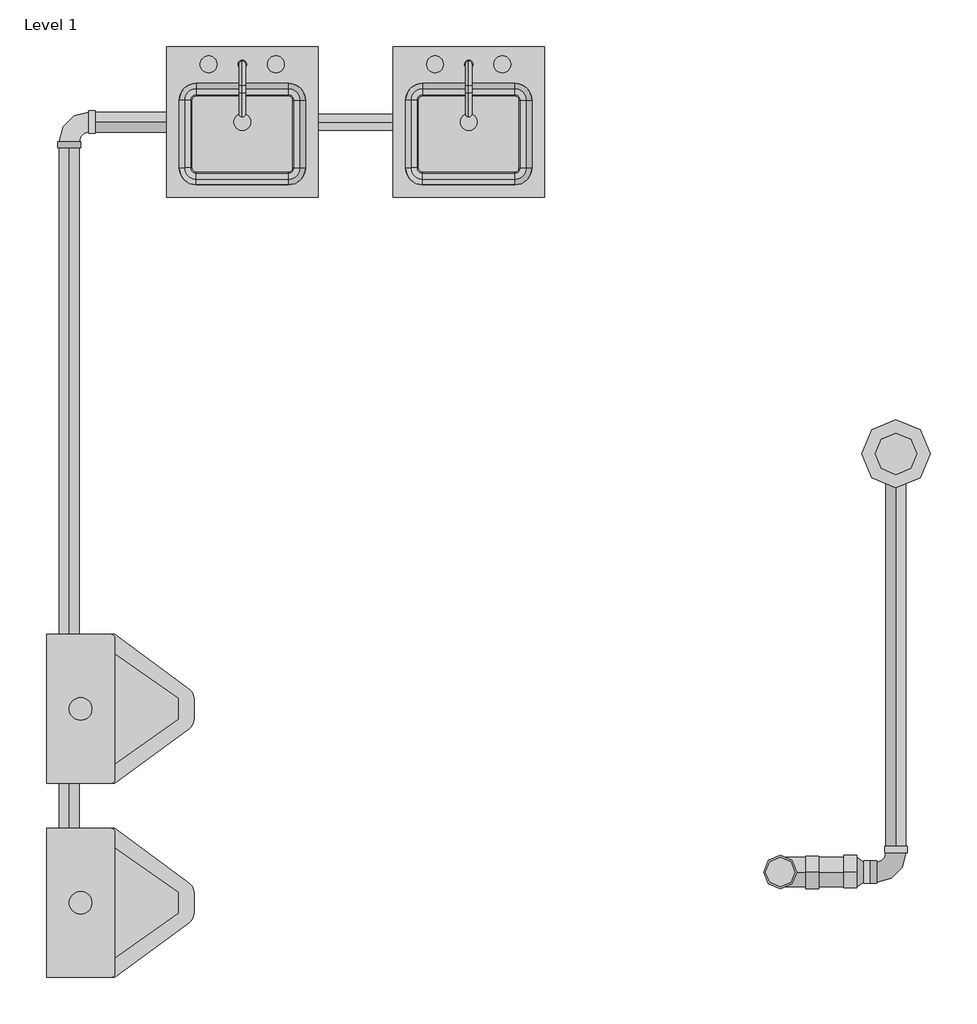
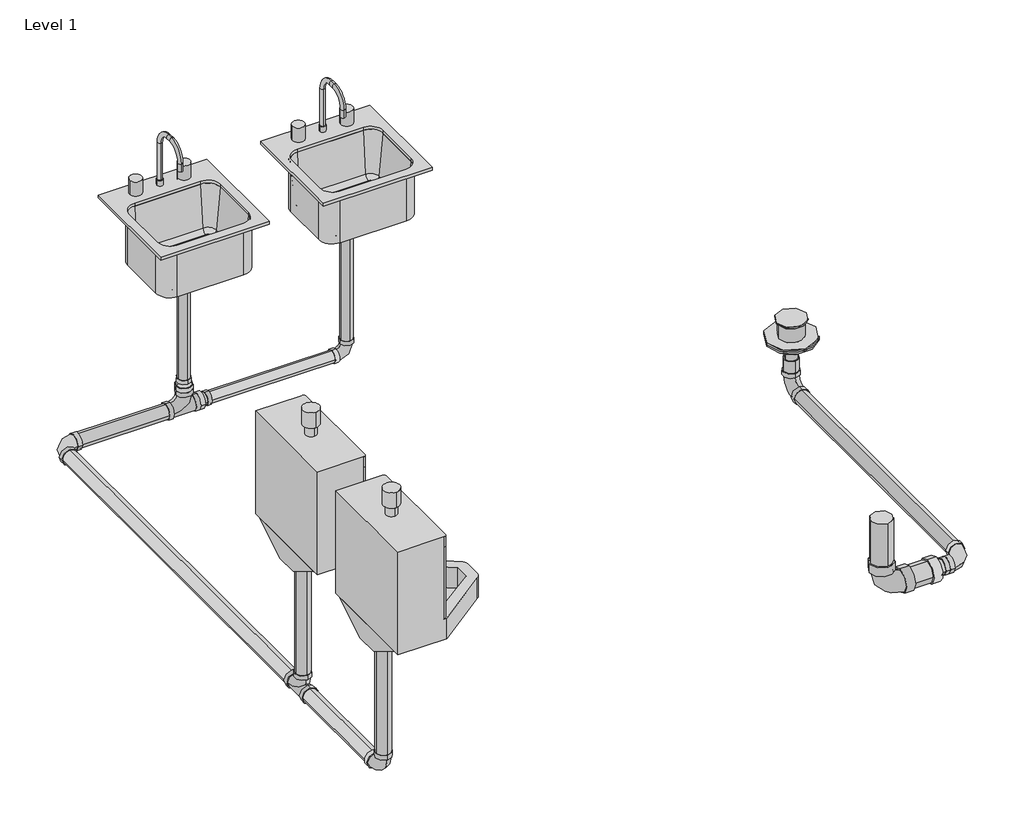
# One storey, incomplete: 12 pipe segments, 11 pipe fittings, 5 flow terminals.
"""IFC4 building model written with IfcOpenShell, lengths in millimetres."""

from ifc_helpers import new_model, si_unit, point, frame, frame_2d, origin, place, context, project, spatial, circle_curve, trimmed, segment, composite_curve, outline, extrude, transform, mapped, element, save
from components import m_floor_drain_round_125_mm_strainer_50_mm_drain_de9ab071, m_sink_island_single_455_mmx455_mm_private_e9fe1f2b, m_urinal_wall_hung_20_mm_flush_valve_97e050b2, m_bend_pvc_sch_40_dwv_standard_a4b99d37, m_bend_pvc_sch_40_dwv_standard_1eaeee76, m_bend_pvc_sch_40_dwv_standard_738aab8b, m_reducer_pvc_sch_40_dwv_standard_44865e00, m_reducer_pvc_sch_40_dwv_standard_b23fa098, m_tee_sanitary_pvc_sch_40_dwv_standard_5d736629

model = new_model("IFC4")

# Units and contexts
model_context = context("Model", 3, world=origin())
ifc_project = project(units=[si_unit("LENGTHUNIT", "METRE", prefix="MILLI")], contexts=[model_context])

# Site, building, storey
site = spatial("IfcSite", under=ifc_project)
building = spatial("IfcBuilding", under=site)
storey = spatial("IfcBuildingStorey", under=building, Name="Level 1", Elevation=0.0)

# Flow terminals
placement = place(None, origin())
m_floor_drain_round_125_mm_strainer_50_mm_drain_shape = m_floor_drain_round_125_mm_strainer_50_mm_drain_de9ab071(model_context)
element("IfcFlowTerminal", 1, ObjectType="M_Floor Drain - Round : 125 mm Strainer - 50 mm Drain", at=placement, inside=storey, context=model_context, shape_type="MappedRepresentation", body=[
    mapped(m_floor_drain_round_125_mm_strainer_50_mm_drain_shape, transform((-1436.9431544, -8148.7531952, 0.0), x_axis=(1.0, 0.0, 0.0), y_axis=(0.0, 1.0, 0.0), z_axis=(0.0, 0.0, 1.0))),
])
m_sink_island_single_455_mmx455_mm_private_shape = m_sink_island_single_455_mmx455_mm_private_e9fe1f2b(model_context)
element("IfcFlowTerminal", 2, ObjectType="M_Sink - Island - Single : 455 mmx455 mm - Private", at=placement, inside=storey, context=model_context, shape_type="MappedRepresentation", body=[
    mapped(m_sink_island_single_455_mmx455_mm_private_shape, transform((-2726.6653565, -7147.9143787, 558.0), x_axis=(1.0, 0.0, 0.0), y_axis=(0.0, 1.0, 0.0), z_axis=(0.0, 0.0, 1.0))),
])
element("IfcFlowTerminal", 3, ObjectType="M_Sink - Island - Single : 455 mmx455 mm - Private", at=placement, inside=storey, context=model_context, shape_type="MappedRepresentation", body=[
    mapped(m_sink_island_single_455_mmx455_mm_private_shape, transform((-3409.9797951, -7147.9143787, 558.0), x_axis=(1.0, 0.0, 0.0), y_axis=(0.0, 1.0, 0.0), z_axis=(0.0, 0.0, 1.0))),
])
m_urinal_wall_hung_20_mm_flush_valve_shape = m_urinal_wall_hung_20_mm_flush_valve_97e050b2(model_context)
element("IfcFlowTerminal", 4, ObjectType="M_Urinal - Wall Hung : 20 mm Flush Valve", at=placement, inside=storey, context=model_context, shape_type="MappedRepresentation", body=[
    mapped(m_urinal_wall_hung_20_mm_flush_valve_shape, transform((-4000.7556544, -9503.3926523, 450.0), x_axis=(0.0, 1.0, 0.0), y_axis=(0.0, 0.0, 1.0), z_axis=(1.0, 0.0, 0.0))),
])
element("IfcFlowTerminal", 5, ObjectType="M_Urinal - Wall Hung : 20 mm Flush Valve", at=placement, inside=storey, context=model_context, shape_type="MappedRepresentation", body=[
    mapped(m_urinal_wall_hung_20_mm_flush_valve_shape, transform((-4000.7556544, -8918.3253299, 450.0), x_axis=(0.0, 1.0, 0.0), y_axis=(0.0, 0.0, 1.0), z_axis=(1.0, 0.0, 0.0))),
])

# Pipe fittings
m_bend_pvc_sch_40_dwv_standard_shape = m_bend_pvc_sch_40_dwv_standard_a4b99d37(model_context)
element("IfcPipeFitting", 6, ObjectType="M_Bend - PVC - Sch 40 - DWV : Standard", at=placement, inside=storey, context=model_context, shape_type="MappedRepresentation", body=[
    mapped(m_bend_pvc_sch_40_dwv_standard_shape, transform((-1786.1931544, -9410.310181, -305.0), x_axis=(0.0, 0.0, -1.0), y_axis=(1.0, 0.0, 0.0), z_axis=(0.0, -1.0, 0.0))),
])
m_bend_pvc_sch_40_dwv_standard_2_shape = m_bend_pvc_sch_40_dwv_standard_1eaeee76(model_context)
element("IfcPipeFitting", 7, ObjectType="M_Bend - PVC - Sch 40 - DWV : Standard", at=placement, inside=storey, context=model_context, shape_type="MappedRepresentation", body=[
    mapped(m_bend_pvc_sch_40_dwv_standard_2_shape, transform((-1436.9431544, -8148.7531952, -305.0), x_axis=(0.0, 0.0, -1.0), y_axis=(0.0, -1.0, 0.0), z_axis=(-1.0, 0.0, 0.0))),
])
element("IfcPipeFitting", 8, ObjectType="M_Bend - PVC - Sch 40 - DWV : Standard", at=placement, inside=storey, context=model_context, shape_type="MappedRepresentation", body=[
    mapped(m_bend_pvc_sch_40_dwv_standard_2_shape, transform((-1436.9431544, -9410.310181, -305.0), x_axis=(1.0, 0.0, 0.0), y_axis=(0.0, 1.0, 0.0), z_axis=(0.0, 0.0, 1.0))),
])
element("IfcPipeFitting", 9, ObjectType="M_Bend - PVC - Sch 40 - DWV : Standard", at=placement, inside=storey, context=model_context, shape_type="MappedRepresentation", body=[
    mapped(m_bend_pvc_sch_40_dwv_standard_2_shape, transform((-3932.0962794, -7147.9143787, -305.0), x_axis=(-1.0, 0.0, 0.0), y_axis=(0.0, -1.0, 0.0), z_axis=(0.0, 0.0, 1.0))),
])
element("IfcPipeFitting", 10, ObjectType="M_Bend - PVC - Sch 40 - DWV : Standard", at=placement, inside=storey, context=model_context, shape_type="MappedRepresentation", body=[
    mapped(m_bend_pvc_sch_40_dwv_standard_2_shape, transform((-3932.0962794, -9503.3926523, -305.0), x_axis=(0.0, 0.0, -1.0), y_axis=(0.0, 1.0, 0.0), z_axis=(1.0, 0.0, 0.0))),
])
m_bend_pvc_sch_40_dwv_standard_3_shape = m_bend_pvc_sch_40_dwv_standard_738aab8b(model_context)
element("IfcPipeFitting", 11, ObjectType="M_Bend - PVC - Sch 40 - DWV : Standard", at=placement, inside=storey, context=model_context, shape_type="MappedRepresentation", body=[
    mapped(m_bend_pvc_sch_40_dwv_standard_3_shape, transform((-2726.6653565, -7147.9143787, -305.0), x_axis=(0.0, 0.0, -1.0), y_axis=(-1.0, 0.0, 0.0), z_axis=(0.0, 1.0, 0.0))),
])
m_reducer_pvc_sch_40_dwv_standard_shape = m_reducer_pvc_sch_40_dwv_standard_44865e00(model_context)
element("IfcPipeFitting", 12, ObjectType="M_Reducer - PVC - Sch 40 - DWV : Standard", at=placement, inside=storey, context=model_context, shape_type="MappedRepresentation", body=[
    mapped(m_reducer_pvc_sch_40_dwv_standard_shape, transform((-1514.7433544, -9410.310181, -305.0), x_axis=(-1.0, 0.0, 0.0), y_axis=(0.0, -1.0, 0.0), z_axis=(0.0, 0.0, 1.0))),
])
m_reducer_pvc_sch_40_dwv_standard_2_shape = m_reducer_pvc_sch_40_dwv_standard_b23fa098(model_context)
element("IfcPipeFitting", 13, ObjectType="M_Reducer - PVC - Sch 40 - DWV : Standard", at=placement, inside=storey, context=model_context, shape_type="MappedRepresentation", body=[
    mapped(m_reducer_pvc_sch_40_dwv_standard_2_shape, transform((-3356.0047951, -7147.9143787, -305.0), x_axis=(1.0, 0.0, 0.0), y_axis=(0.0, 1.0, 0.0), z_axis=(0.0, 0.0, 1.0))),
])
element("IfcPipeFitting", 14, ObjectType="M_Reducer - PVC - Sch 40 - DWV : Standard", at=placement, inside=storey, context=model_context, shape_type="MappedRepresentation", body=[
    mapped(m_reducer_pvc_sch_40_dwv_standard_2_shape, transform((-3409.9797951, -7147.9143787, -227.1998), x_axis=(0.0, 0.0, 1.0), y_axis=(-1.0, 0.0, 0.0), z_axis=(0.0, -1.0, 0.0))),
])
m_tee_sanitary_pvc_sch_40_dwv_standard_shape = m_tee_sanitary_pvc_sch_40_dwv_standard_5d736629(model_context)
element("IfcPipeFitting", 15, ObjectType="M_Tee Sanitary - PVC - Sch 40 - DWV : Standard", at=placement, inside=storey, context=model_context, shape_type="MappedRepresentation", body=[
    mapped(m_tee_sanitary_pvc_sch_40_dwv_standard_shape, transform((-3932.0962794, -8918.3253299, -305.0), x_axis=(0.0, -1.0, 0.0), y_axis=(0.0, 0.0, -1.0), z_axis=(1.0, 0.0, 0.0))),
])
element("IfcPipeFitting", 16, ObjectType="M_Tee Sanitary - PVC - Sch 40 - DWV : Standard", at=placement, inside=storey, context=model_context, shape_type="MappedRepresentation", body=[
    mapped(m_tee_sanitary_pvc_sch_40_dwv_standard_shape, transform((-3409.9797951, -7147.9143787, -305.0), x_axis=(1.0, 0.0, 0.0), y_axis=(0.0, 0.0, -1.0), z_axis=(0.0, 1.0, 0.0))),
])

# Pipe segments
element("IfcPipeSegment", 17, ObjectType="PVC - DWV", at=placement, inside=storey, context=model_context, shape_type="SweptSolid", body=[
    extrude(outline(composite_curve([segment(trimmed(circle_curve(frame_2d((-9410.310181, -305.0)), 44.45), [point((-9454.760181, -305.0))], [point((-9410.310181, -260.55))], False, "CARTESIAN"), True, "CONTINUOUS"), segment(trimmed(circle_curve(frame_2d((-9410.310181, -305.0)), 44.45), [point((-9410.310181, -260.55))], [point((-9365.860181, -305.0))], False, "CARTESIAN"), True, "CONTINUOUS"), segment(trimmed(circle_curve(frame_2d((-9410.310181, -305.0)), 44.45), [point((-9365.860181, -305.0))], [point((-9410.310181, -349.45))], False, "CARTESIAN"), True, "CONTINUOUS"), segment(trimmed(circle_curve(frame_2d((-9410.310181, -305.0)), 44.45), [point((-9410.310181, -349.45))], [point((-9454.760181, -305.0))], False, "CARTESIAN"), True, "CONTINUOUS")], self_intersect=False)), frame((-1670.2929544, 0.0, 0.0), z_axis=(1.0, 0.0, 0.0), x_axis=(0.0, 1.0, 0.0)), (0.0, 0.0, 1.0), 76.1746),
])
element("IfcPipeSegment", 18, ObjectType="PVC - DWV", at=placement, inside=storey, context=model_context, shape_type="SweptSolid", body=[
    extrude(outline(composite_curve([segment(trimmed(circle_curve(frame_2d((-1786.1931544, -9410.310181)), 44.45), [point((-1741.7431544, -9410.310181))], [point((-1786.1931544, -9454.760181))], False, "CARTESIAN"), True, "CONTINUOUS"), segment(trimmed(circle_curve(frame_2d((-1786.1931544, -9410.310181)), 44.45), [point((-1786.1931544, -9454.760181))], [point((-1830.6431544, -9410.310181))], False, "CARTESIAN"), True, "CONTINUOUS"), segment(trimmed(circle_curve(frame_2d((-1786.1931544, -9410.310181)), 44.45), [point((-1830.6431544, -9410.310181))], [point((-1786.1931544, -9365.860181))], False, "CARTESIAN"), True, "CONTINUOUS"), segment(trimmed(circle_curve(frame_2d((-1786.1931544, -9410.310181)), 44.45), [point((-1786.1931544, -9365.860181))], [point((-1741.7431544, -9410.310181))], False, "CARTESIAN"), True, "CONTINUOUS")], self_intersect=False)), frame((0.0, 0.0, -189.0998), z_axis=(0.0, 0.0, 1.0), x_axis=(1.0, 0.0, 0.0)), (0.0, 0.0, 1.0), 189.0998),
])
element("IfcPipeSegment", 19, ObjectType="PVC - DWV", at=placement, inside=storey, context=model_context, shape_type="SweptSolid", body=[
    extrude(outline(composite_curve([segment(trimmed(circle_curve(frame_2d((-305.0, -1436.9431544)), 30.1625), [point((-305.0, -1467.1056544))], [point((-335.1625, -1436.9431544))], False, "CARTESIAN"), True, "CONTINUOUS"), segment(trimmed(circle_curve(frame_2d((-305.0, -1436.9431544)), 30.1625), [point((-335.1625, -1436.9431544))], [point((-305.0, -1406.7806544))], False, "CARTESIAN"), True, "CONTINUOUS"), segment(trimmed(circle_curve(frame_2d((-305.0, -1436.9431544)), 30.1625), [point((-305.0, -1406.7806544))], [point((-274.8375, -1436.9431544))], False, "CARTESIAN"), True, "CONTINUOUS"), segment(trimmed(circle_curve(frame_2d((-305.0, -1436.9431544)), 30.1625), [point((-274.8375, -1436.9431544))], [point((-305.0, -1467.1056544))], False, "CARTESIAN"), True, "CONTINUOUS")], self_intersect=False)), frame((0.0, -9332.509981, 0.0), z_axis=(0.0, 1.0, 0.0), x_axis=(0.0, 0.0, 1.0)), (0.0, 0.0, 1.0), 1105.9565858),
])
element("IfcPipeSegment", 20, ObjectType="PVC - DWV", at=placement, inside=storey, context=model_context, shape_type="SweptSolid", body=[
    extrude(outline(composite_curve([segment(trimmed(circle_curve(frame_2d((-1436.9431544, -8148.7531952)), 30.1625), [point((-1406.7806544, -8148.7531952))], [point((-1436.9431544, -8178.9156952))], False, "CARTESIAN"), True, "CONTINUOUS"), segment(trimmed(circle_curve(frame_2d((-1436.9431544, -8148.7531952)), 30.1625), [point((-1436.9431544, -8178.9156952))], [point((-1467.1056544, -8148.7531952))], False, "CARTESIAN"), True, "CONTINUOUS"), segment(trimmed(circle_curve(frame_2d((-1436.9431544, -8148.7531952)), 30.1625), [point((-1467.1056544, -8148.7531952))], [point((-1436.9431544, -8118.5906952))], False, "CARTESIAN"), True, "CONTINUOUS"), segment(trimmed(circle_curve(frame_2d((-1436.9431544, -8148.7531952)), 30.1625), [point((-1436.9431544, -8118.5906952))], [point((-1406.7806544, -8148.7531952))], False, "CARTESIAN"), True, "CONTINUOUS")], self_intersect=False)), frame((0.0, 0.0, -227.1998), z_axis=(0.0, 0.0, 1.0), x_axis=(1.0, 0.0, 0.0)), (0.0, 0.0, 1.0), 52.1998),
])
element("IfcPipeSegment", 21, ObjectType="PVC - DWV", at=placement, inside=storey, context=model_context, shape_type="SweptSolid", body=[
    extrude(outline(composite_curve([segment(trimmed(circle_curve(frame_2d((-305.0, -3932.0962794)), 30.1625), [point((-305.0, -3901.9337794))], [point((-274.8375, -3932.0962794))], False, "CARTESIAN"), True, "CONTINUOUS"), segment(trimmed(circle_curve(frame_2d((-305.0, -3932.0962794)), 30.1625), [point((-274.8375, -3932.0962794))], [point((-305.0, -3962.2587794))], False, "CARTESIAN"), True, "CONTINUOUS"), segment(trimmed(circle_curve(frame_2d((-305.0, -3932.0962794)), 30.1625), [point((-305.0, -3962.2587794))], [point((-335.1625, -3932.0962794))], False, "CARTESIAN"), True, "CONTINUOUS"), segment(trimmed(circle_curve(frame_2d((-305.0, -3932.0962794)), 30.1625), [point((-335.1625, -3932.0962794))], [point((-305.0, -3901.9337794))], False, "CARTESIAN"), True, "CONTINUOUS")], self_intersect=False)), frame((0.0, -8840.5251299, 0.0), z_axis=(0.0, 1.0, 0.0), x_axis=(0.0, 0.0, 1.0)), (0.0, 0.0, 1.0), 1614.8105512),
])
element("IfcPipeSegment", 22, ObjectType="PVC - DWV", at=placement, inside=storey, context=model_context, shape_type="SweptSolid", body=[
    extrude(outline(composite_curve([segment(trimmed(circle_curve(frame_2d((-7147.9143787, -305.0)), 30.1625), [point((-7178.0768787, -305.0))], [point((-7147.9143787, -274.8375))], False, "CARTESIAN"), True, "CONTINUOUS"), segment(trimmed(circle_curve(frame_2d((-7147.9143787, -305.0)), 30.1625), [point((-7147.9143787, -274.8375))], [point((-7117.7518787, -305.0))], False, "CARTESIAN"), True, "CONTINUOUS"), segment(trimmed(circle_curve(frame_2d((-7147.9143787, -305.0)), 30.1625), [point((-7117.7518787, -305.0))], [point((-7147.9143787, -335.1625))], False, "CARTESIAN"), True, "CONTINUOUS"), segment(trimmed(circle_curve(frame_2d((-7147.9143787, -305.0)), 30.1625), [point((-7147.9143787, -335.1625))], [point((-7178.0768787, -305.0))], False, "CARTESIAN"), True, "CONTINUOUS")], self_intersect=False)), frame((-3854.2960794, 0.0, 0.0), z_axis=(1.0, 0.0, 0.0), x_axis=(0.0, 1.0, 0.0)), (0.0, 0.0, 1.0), 366.5160844),
])
element("IfcPipeSegment", 23, ObjectType="PVC - DWV", at=placement, inside=storey, context=model_context, shape_type="SweptSolid", body=[
    extrude(outline(composite_curve([segment(trimmed(circle_curve(frame_2d((-3932.0962794, -8918.3253299)), 30.1625), [point((-3901.9337794, -8918.3253299))], [point((-3932.0962794, -8948.4878299))], False, "CARTESIAN"), True, "CONTINUOUS"), segment(trimmed(circle_curve(frame_2d((-3932.0962794, -8918.3253299)), 30.1625), [point((-3932.0962794, -8948.4878299))], [point((-3962.2587794, -8918.3253299))], False, "CARTESIAN"), True, "CONTINUOUS"), segment(trimmed(circle_curve(frame_2d((-3932.0962794, -8918.3253299)), 30.1625), [point((-3962.2587794, -8918.3253299))], [point((-3932.0962794, -8888.1628299))], False, "CARTESIAN"), True, "CONTINUOUS"), segment(trimmed(circle_curve(frame_2d((-3932.0962794, -8918.3253299)), 30.1625), [point((-3932.0962794, -8888.1628299))], [point((-3901.9337794, -8918.3253299))], False, "CARTESIAN"), True, "CONTINUOUS")], self_intersect=False)), frame((0.0, 0.0, -227.1998), z_axis=(0.0, 0.0, 1.0), x_axis=(1.0, 0.0, 0.0)), (0.0, 0.0, 1.0), 494.6373),
])
element("IfcPipeSegment", 24, ObjectType="PVC - DWV", at=placement, inside=storey, context=model_context, shape_type="SweptSolid", body=[
    extrude(outline(composite_curve([segment(trimmed(circle_curve(frame_2d((-305.0, -3932.0962794)), 30.1625), [point((-305.0, -3901.9337794))], [point((-274.8375, -3932.0962794))], False, "CARTESIAN"), True, "CONTINUOUS"), segment(trimmed(circle_curve(frame_2d((-305.0, -3932.0962794)), 30.1625), [point((-274.8375, -3932.0962794))], [point((-305.0, -3962.2587794))], False, "CARTESIAN"), True, "CONTINUOUS"), segment(trimmed(circle_curve(frame_2d((-305.0, -3932.0962794)), 30.1625), [point((-305.0, -3962.2587794))], [point((-335.1625, -3932.0962794))], False, "CARTESIAN"), True, "CONTINUOUS"), segment(trimmed(circle_curve(frame_2d((-305.0, -3932.0962794)), 30.1625), [point((-335.1625, -3932.0962794))], [point((-305.0, -3901.9337794))], False, "CARTESIAN"), True, "CONTINUOUS")], self_intersect=False)), frame((0.0, -9425.5924523, 0.0), z_axis=(0.0, 1.0, 0.0), x_axis=(0.0, 0.0, 1.0)), (0.0, 0.0, 1.0), 453.2921224),
])
element("IfcPipeSegment", 25, ObjectType="PVC - DWV", at=placement, inside=storey, context=model_context, shape_type="SweptSolid", body=[
    extrude(outline(composite_curve([segment(trimmed(circle_curve(frame_2d((-3932.0962794, -9503.3926523)), 30.1625), [point((-3901.9337794, -9503.3926523))], [point((-3932.0962794, -9533.5551523))], False, "CARTESIAN"), True, "CONTINUOUS"), segment(trimmed(circle_curve(frame_2d((-3932.0962794, -9503.3926523)), 30.1625), [point((-3932.0962794, -9533.5551523))], [point((-3962.2587794, -9503.3926523))], False, "CARTESIAN"), True, "CONTINUOUS"), segment(trimmed(circle_curve(frame_2d((-3932.0962794, -9503.3926523)), 30.1625), [point((-3962.2587794, -9503.3926523))], [point((-3932.0962794, -9473.2301523))], False, "CARTESIAN"), True, "CONTINUOUS"), segment(trimmed(circle_curve(frame_2d((-3932.0962794, -9503.3926523)), 30.1625), [point((-3932.0962794, -9473.2301523))], [point((-3901.9337794, -9503.3926523))], False, "CARTESIAN"), True, "CONTINUOUS")], self_intersect=False)), frame((0.0, 0.0, -227.1998), z_axis=(0.0, 0.0, 1.0), x_axis=(1.0, 0.0, 0.0)), (0.0, 0.0, 1.0), 494.6373),
])
element("IfcPipeSegment", 26, ObjectType="PVC - DWV", at=placement, inside=storey, context=model_context, shape_type="SweptSolid", body=[
    extrude(outline(composite_curve([segment(trimmed(circle_curve(frame_2d((-3409.9797951, -7147.9143787)), 24.13), [point((-3385.8497951, -7147.9143787))], [point((-3409.9797951, -7172.0443787))], False, "CARTESIAN"), True, "CONTINUOUS"), segment(trimmed(circle_curve(frame_2d((-3409.9797951, -7147.9143787)), 24.13), [point((-3409.9797951, -7172.0443787))], [point((-3434.1097951, -7147.9143787))], False, "CARTESIAN"), True, "CONTINUOUS"), segment(trimmed(circle_curve(frame_2d((-3409.9797951, -7147.9143787)), 24.13), [point((-3434.1097951, -7147.9143787))], [point((-3409.9797951, -7123.7843787))], False, "CARTESIAN"), True, "CONTINUOUS"), segment(trimmed(circle_curve(frame_2d((-3409.9797951, -7147.9143787)), 24.13), [point((-3409.9797951, -7123.7843787))], [point((-3385.8497951, -7147.9143787))], False, "CARTESIAN"), True, "CONTINUOUS")], self_intersect=False)), frame((0.0, 0.0, -177.2126), z_axis=(0.0, 0.0, 1.0), x_axis=(1.0, 0.0, 0.0)), (0.0, 0.0, 1.0), 522.6876),
])
element("IfcPipeSegment", 27, ObjectType="PVC - DWV", at=placement, inside=storey, context=model_context, shape_type="SweptSolid", body=[
    extrude(outline(composite_curve([segment(trimmed(circle_curve(frame_2d((-7147.9143787, -305.0)), 24.13), [point((-7123.7843787, -305.0))], [point((-7147.9143787, -329.13))], False, "CARTESIAN"), True, "CONTINUOUS"), segment(trimmed(circle_curve(frame_2d((-7147.9143787, -305.0)), 24.13), [point((-7147.9143787, -329.13))], [point((-7172.0443787, -305.0))], False, "CARTESIAN"), True, "CONTINUOUS"), segment(trimmed(circle_curve(frame_2d((-7147.9143787, -305.0)), 24.13), [point((-7172.0443787, -305.0))], [point((-7147.9143787, -280.87))], False, "CARTESIAN"), True, "CONTINUOUS"), segment(trimmed(circle_curve(frame_2d((-7147.9143787, -305.0)), 24.13), [point((-7147.9143787, -280.87))], [point((-7123.7843787, -305.0))], False, "CARTESIAN"), True, "CONTINUOUS")], self_intersect=False)), frame((-3306.0175951, 0.0, 0.0), z_axis=(1.0, 0.0, 0.0), x_axis=(0.0, 1.0, 0.0)), (0.0, 0.0, 1.0), 517.4524386),
])
element("IfcPipeSegment", 28, ObjectType="PVC - DWV", at=placement, inside=storey, context=model_context, shape_type="SweptSolid", body=[
    extrude(outline(composite_curve([segment(trimmed(circle_curve(frame_2d((-2726.6653565, -7147.9143787)), 24.13), [point((-2702.5353565, -7147.9143787))], [point((-2726.6653565, -7172.0443787))], False, "CARTESIAN"), True, "CONTINUOUS"), segment(trimmed(circle_curve(frame_2d((-2726.6653565, -7147.9143787)), 24.13), [point((-2726.6653565, -7172.0443787))], [point((-2750.7953565, -7147.9143787))], False, "CARTESIAN"), True, "CONTINUOUS"), segment(trimmed(circle_curve(frame_2d((-2726.6653565, -7147.9143787)), 24.13), [point((-2750.7953565, -7147.9143787))], [point((-2726.6653565, -7123.7843787))], False, "CARTESIAN"), True, "CONTINUOUS"), segment(trimmed(circle_curve(frame_2d((-2726.6653565, -7147.9143787)), 24.13), [point((-2726.6653565, -7123.7843787))], [point((-2702.5353565, -7147.9143787))], False, "CARTESIAN"), True, "CONTINUOUS")], self_intersect=False)), frame((0.0, 0.0, -243.1002), z_axis=(0.0, 0.0, 1.0), x_axis=(1.0, 0.0, 0.0)), (0.0, 0.0, 1.0), 588.5752),
])

save(model, "model.ifc")
